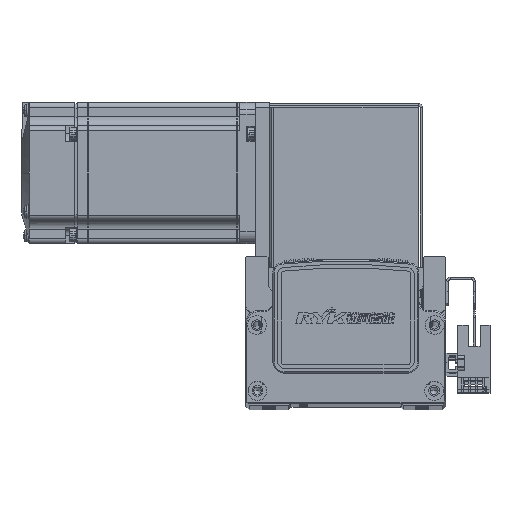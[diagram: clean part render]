
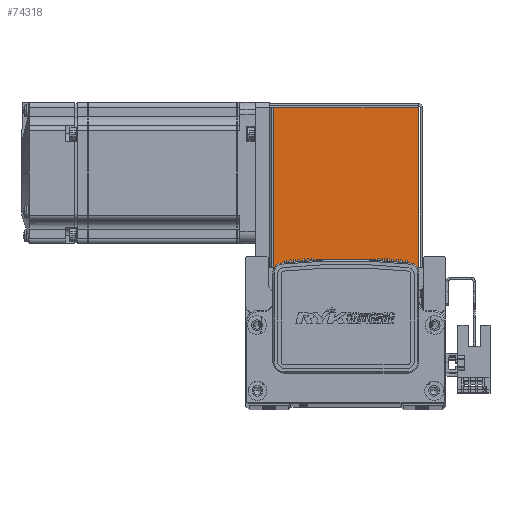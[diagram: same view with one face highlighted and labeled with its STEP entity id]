
A CAD part, top view. The second image highlights one B-rep face of the part: STEP entity #74318.
In plain terms, the highlighted planar face has unit normal (0, 0, 1).
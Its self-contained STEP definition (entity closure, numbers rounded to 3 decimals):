
#2995 = VECTOR ( 'NONE', #43126, 1000. ) ;
#3009 = LINE ( 'NONE', #43122, #2995 ) ;
#3013 = LINE ( 'NONE', #43139, #3014 ) ;
#3014 = VECTOR ( 'NONE', #43145, 1000. ) ;
#3016 = LINE ( 'NONE', #43123, #3052 ) ;
#3052 = VECTOR ( 'NONE', #43113, 1000. ) ;
#3054 = VECTOR ( 'NONE', #43278, 1000. ) ;
#3071 = LINE ( 'NONE', #43266, #3054 ) ;
#22982 = EDGE_LOOP ( 'NONE', ( #44587, #44623, #44555, #44606 ) ) ;
#43113 = DIRECTION ( 'NONE',  ( 0., 1., 0. ) ) ;
#43122 = CARTESIAN_POINT ( 'NONE',  ( 0., 68.5, 35. ) ) ;
#43123 = CARTESIAN_POINT ( 'NONE',  ( -30.793, 0., 35. ) ) ;
#43126 = DIRECTION ( 'NONE',  ( -1., 0., 0. ) ) ;
#43139 = CARTESIAN_POINT ( 'NONE',  ( -32.5, 0.737, 35. ) ) ;
#43145 = DIRECTION ( 'NONE',  ( -1., 0., 0. ) ) ;
#43266 = CARTESIAN_POINT ( 'NONE',  ( 30.763, 0.737, 35. ) ) ;
#43278 = DIRECTION ( 'NONE',  ( 0., 1., 0. ) ) ;
#44555 = ORIENTED_EDGE ( 'NONE', *, *, #77594, .F. ) ;
#44587 = ORIENTED_EDGE ( 'NONE', *, *, #77686, .T. ) ;
#44606 = ORIENTED_EDGE ( 'NONE', *, *, #77625, .F. ) ;
#44623 = ORIENTED_EDGE ( 'NONE', *, *, #77596, .T. ) ;
#45668 = CARTESIAN_POINT ( 'NONE',  ( -30.793, 68.5, 35. ) ) ;
#45689 = CARTESIAN_POINT ( 'NONE',  ( 30.763, 0.737, 35. ) ) ;
#45698 = CARTESIAN_POINT ( 'NONE',  ( 30.763, 68.5, 35. ) ) ;
#45738 = CARTESIAN_POINT ( 'NONE',  ( -30.793, 0.737, 35. ) ) ;
#46856 = VERTEX_POINT ( 'NONE', #45668 ) ;
#46861 = VERTEX_POINT ( 'NONE', #45738 ) ;
#46882 = VERTEX_POINT ( 'NONE', #45698 ) ;
#46897 = VERTEX_POINT ( 'NONE', #45689 ) ;
#55075 = AXIS2_PLACEMENT_3D ( 'NONE', #61156, #61165, #61158 ) ;
#58213 = FACE_OUTER_BOUND ( 'NONE', #22982, .T. ) ;
#61156 = CARTESIAN_POINT ( 'NONE',  ( 0., 0., 35. ) ) ;
#61158 = DIRECTION ( 'NONE',  ( -1., 0., 0. ) ) ;
#61161 = PLANE ( 'NONE',  #55075 ) ;
#61165 = DIRECTION ( 'NONE',  ( 0., 0., -1. ) ) ;
#74318 = ADVANCED_FACE ( 'NONE', ( #58213 ), #61161, .F. ) ;
#77594 = EDGE_CURVE ( 'NONE', #46861, #46856, #3016, .T. ) ;
#77596 = EDGE_CURVE ( 'NONE', #46882, #46856, #3009, .T. ) ;
#77625 = EDGE_CURVE ( 'NONE', #46897, #46861, #3013, .T. ) ;
#77686 = EDGE_CURVE ( 'NONE', #46897, #46882, #3071, .T. ) ;
